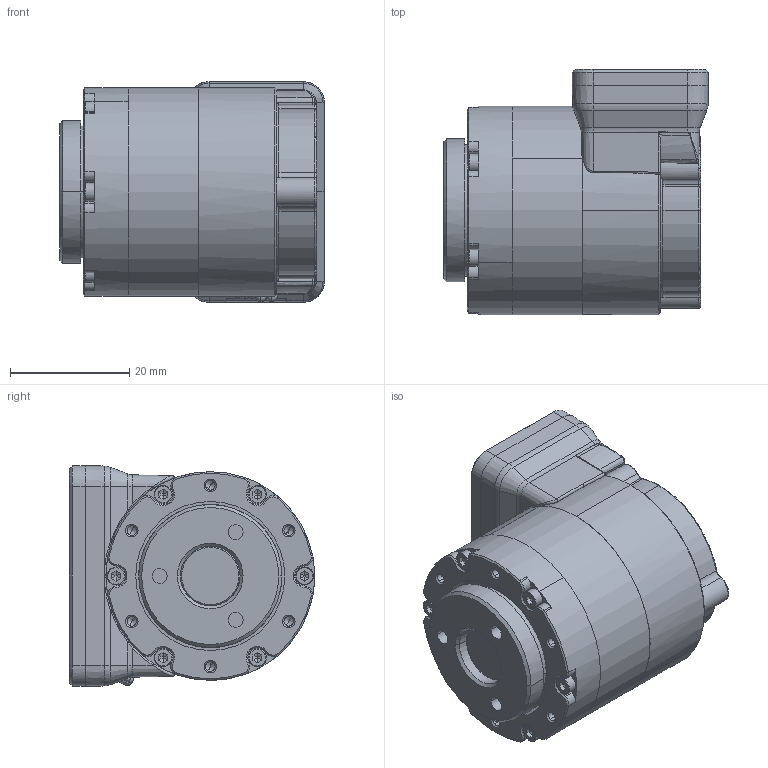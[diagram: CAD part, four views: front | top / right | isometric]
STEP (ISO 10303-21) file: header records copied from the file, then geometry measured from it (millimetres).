
FILE_DESCRIPTION (( 'STEP AP214' ), '1' );
FILE_NAME ('Qdd_2305_363D.STEP', '2019-04-24T10:28:25', ( 'Microsoft' ), ( 'Microsoft' ), 'SwSTEP 2.0', 'SolidWorks 2018', '' );
FILE_SCHEMA (( 'AUTOMOTIVE_DESIGN' ));
Length unit declared in the file: millimetre
Products named in the file (1): Qdd_2305_363D
Bounding box: 44.43 x 41.13 x 37 mm (x, y, z)
Volume: 41746.6 mm3; surface area: 23160.8 mm2
Topology: 19 solids, 25 shells, 1287 faces, 3059 edges, 1816 vertices
Faces by surface type: cylinder 479, plane 357, cone 305, torus 79, bspline 51, sphere 16
Entity records: 55170 total; most frequent: CARTESIAN_POINT 11957, ORIENTED_EDGE 6014, DIRECTION 5997, EDGE_CURVE 3007, AXIS2_PLACEMENT_3D 2283, VERTEX_POINT 1806, LINE 1431, VECTOR 1431
